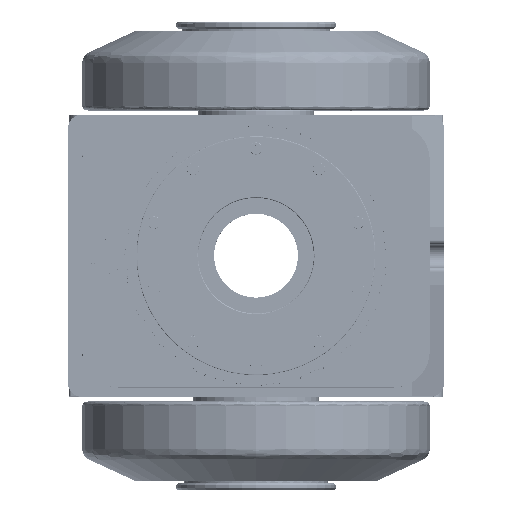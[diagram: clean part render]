
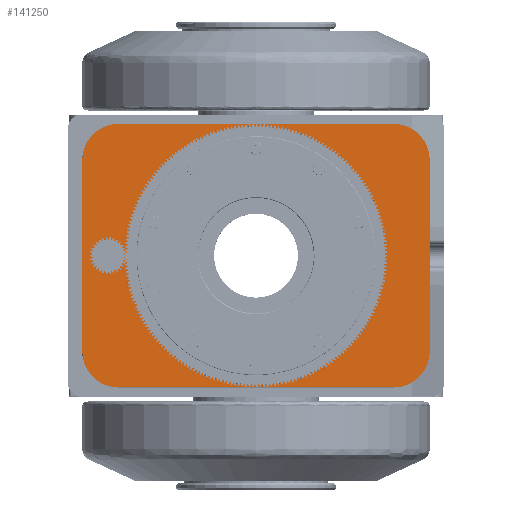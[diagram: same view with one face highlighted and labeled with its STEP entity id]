
A CAD part, top view. The second image highlights one B-rep face of the part: STEP entity #141250.
In plain terms, the highlighted planar face has unit normal (0, 0, 1).
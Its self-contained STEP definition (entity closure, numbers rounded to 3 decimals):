
#8849 = EDGE_CURVE ( 'NONE', #61962, #61968, #26941, .T. ) ;
#8853 = EDGE_CURVE ( 'NONE', #61970, #61976, #26959, .T. ) ;
#8937 = EDGE_CURVE ( 'NONE', #61976, #61970, #27267, .T. ) ;
#8938 = EDGE_CURVE ( 'NONE', #61968, #61962, #27269, .T. ) ;
#8960 = EDGE_CURVE ( 'NONE', #62096, #62084, #27347, .T. ) ;
#8961 = EDGE_CURVE ( 'NONE', #62098, #62084, #27335, .T. ) ;
#8962 = EDGE_CURVE ( 'NONE', #62098, #62104, #27352, .T. ) ;
#8963 = EDGE_CURVE ( 'NONE', #62092, #62104, #27361, .T. ) ;
#8964 = EDGE_CURVE ( 'NONE', #62092, #62108, #27357, .T. ) ;
#8965 = EDGE_CURVE ( 'NONE', #62102, #62108, #27369, .T. ) ;
#8966 = EDGE_CURVE ( 'NONE', #62102, #62112, #27366, .T. ) ;
#8967 = EDGE_CURVE ( 'NONE', #62096, #62112, #27379, .T. ) ;
#26941 = CIRCLE ( 'NONE', #31730, 10. ) ;
#26959 = CIRCLE ( 'NONE', #31735, 82.5 ) ;
#27267 = CIRCLE ( 'NONE', #31835, 82.5 ) ;
#27269 = CIRCLE ( 'NONE', #31838, 10. ) ;
#27335 = CIRCLE ( 'NONE', #31868, 25. ) ;
#27347 = LINE ( 'NONE', #150393, #27354 ) ;
#27352 = LINE ( 'NONE', #150402, #27364 ) ;
#27354 = VECTOR ( 'NONE', #150397, 1000. ) ;
#27357 = LINE ( 'NONE', #150413, #27372 ) ;
#27361 = CIRCLE ( 'NONE', #31870, 25. ) ;
#27364 = VECTOR ( 'NONE', #150395, 1000. ) ;
#27366 = LINE ( 'NONE', #150424, #27381 ) ;
#27369 = CIRCLE ( 'NONE', #31873, 25. ) ;
#27372 = VECTOR ( 'NONE', #150398, 1000. ) ;
#27379 = CIRCLE ( 'NONE', #31875, 25. ) ;
#27381 = VECTOR ( 'NONE', #150411, 1000. ) ;
#31730 = AXIS2_PLACEMENT_3D ( 'NONE', #149755, #149758, #149761 ) ;
#31735 = AXIS2_PLACEMENT_3D ( 'NONE', #149796, #149799, #149802 ) ;
#31835 = AXIS2_PLACEMENT_3D ( 'NONE', #150264, #150266, #150268 ) ;
#31838 = AXIS2_PLACEMENT_3D ( 'NONE', #150271, #150273, #150275 ) ;
#31868 = AXIS2_PLACEMENT_3D ( 'NONE', #150403, #150405, #150407 ) ;
#31870 = AXIS2_PLACEMENT_3D ( 'NONE', #150414, #150416, #150418 ) ;
#31873 = AXIS2_PLACEMENT_3D ( 'NONE', #150425, #150427, #150429 ) ;
#31875 = AXIS2_PLACEMENT_3D ( 'NONE', #150435, #150437, #150439 ) ;
#44885 = AXIS2_PLACEMENT_3D ( 'NONE', #105714, #105710, #105720 ) ;
#61962 = VERTEX_POINT ( 'NONE', #96998 ) ;
#61968 = VERTEX_POINT ( 'NONE', #97007 ) ;
#61970 = VERTEX_POINT ( 'NONE', #97009 ) ;
#61976 = VERTEX_POINT ( 'NONE', #97018 ) ;
#62084 = VERTEX_POINT ( 'NONE', #97157 ) ;
#62092 = VERTEX_POINT ( 'NONE', #97167 ) ;
#62096 = VERTEX_POINT ( 'NONE', #97172 ) ;
#62098 = VERTEX_POINT ( 'NONE', #97174 ) ;
#62102 = VERTEX_POINT ( 'NONE', #97180 ) ;
#62104 = VERTEX_POINT ( 'NONE', #97183 ) ;
#62108 = VERTEX_POINT ( 'NONE', #97188 ) ;
#62112 = VERTEX_POINT ( 'NONE', #97193 ) ;
#79037 = EDGE_LOOP ( 'NONE', ( #161807, #161808, #161809, #161810, #161811, #161812, #161813, #161814 ) ) ;
#79075 = EDGE_LOOP ( 'NONE', ( #161805, #161806 ) ) ;
#79132 = EDGE_LOOP ( 'NONE', ( #161803, #161804 ) ) ;
#96998 = CARTESIAN_POINT ( 'NONE',  ( -102., -10., -2. ) ) ;
#97007 = CARTESIAN_POINT ( 'NONE',  ( -102., 10., -2. ) ) ;
#97009 = CARTESIAN_POINT ( 'NONE',  ( 0., 82.5, -2. ) ) ;
#97018 = CARTESIAN_POINT ( 'NONE',  ( 0., -82.5, -2. ) ) ;
#97157 = CARTESIAN_POINT ( 'NONE',  ( 120., 66., -2. ) ) ;
#97167 = CARTESIAN_POINT ( 'NONE',  ( -120., 66., -2. ) ) ;
#97172 = CARTESIAN_POINT ( 'NONE',  ( 120., -66., -2. ) ) ;
#97174 = CARTESIAN_POINT ( 'NONE',  ( 95., 91., -2. ) ) ;
#97180 = CARTESIAN_POINT ( 'NONE',  ( -95., -91., -2. ) ) ;
#97183 = CARTESIAN_POINT ( 'NONE',  ( -95., 91., -2. ) ) ;
#97188 = CARTESIAN_POINT ( 'NONE',  ( -120., -66., -2. ) ) ;
#97193 = CARTESIAN_POINT ( 'NONE',  ( 95., -91., -2. ) ) ;
#105710 = DIRECTION ( 'NONE',  ( 0., 0., 1. ) ) ;
#105714 = CARTESIAN_POINT ( 'NONE',  ( 0., 0., -2. ) ) ;
#105718 = PLANE ( 'NONE',  #44885 ) ;
#105720 = DIRECTION ( 'NONE',  ( 0., -1., 0. ) ) ;
#140154 = FACE_OUTER_BOUND ( 'NONE', #79037, .T. ) ;
#140186 = FACE_BOUND ( 'NONE', #79132, .T. ) ;
#140199 = FACE_BOUND ( 'NONE', #79075, .T. ) ;
#141250 = ADVANCED_FACE ( 'NONE', ( #140186, #140199, #140154 ), #105718, .T. ) ;
#149755 = CARTESIAN_POINT ( 'NONE',  ( -102., 0., -2. ) ) ;
#149758 = DIRECTION ( 'NONE',  ( 0., 0., -1. ) ) ;
#149761 = DIRECTION ( 'NONE',  ( 0., 1., 0. ) ) ;
#149796 = CARTESIAN_POINT ( 'NONE',  ( 0., 0., -2. ) ) ;
#149799 = DIRECTION ( 'NONE',  ( 0., 0., -1. ) ) ;
#149802 = DIRECTION ( 'NONE',  ( 0., -1., 0. ) ) ;
#150264 = CARTESIAN_POINT ( 'NONE',  ( 0., 0., -2. ) ) ;
#150266 = DIRECTION ( 'NONE',  ( 0., 0., -1. ) ) ;
#150268 = DIRECTION ( 'NONE',  ( 0., -1., 0. ) ) ;
#150271 = CARTESIAN_POINT ( 'NONE',  ( -102., 0., -2. ) ) ;
#150273 = DIRECTION ( 'NONE',  ( 0., 0., -1. ) ) ;
#150275 = DIRECTION ( 'NONE',  ( 0., 1., 0. ) ) ;
#150393 = CARTESIAN_POINT ( 'NONE',  ( 120., -91., -2. ) ) ;
#150395 = DIRECTION ( 'NONE',  ( -1., 0., 0. ) ) ;
#150397 = DIRECTION ( 'NONE',  ( 0., 1., 0. ) ) ;
#150398 = DIRECTION ( 'NONE',  ( 0., -1., 0. ) ) ;
#150402 = CARTESIAN_POINT ( 'NONE',  ( -120., 91., -2. ) ) ;
#150403 = CARTESIAN_POINT ( 'NONE',  ( 95., 66., -2. ) ) ;
#150405 = DIRECTION ( 'NONE',  ( 0., 0., -1. ) ) ;
#150407 = DIRECTION ( 'NONE',  ( 0., -1., 0. ) ) ;
#150411 = DIRECTION ( 'NONE',  ( 1., 0., 0. ) ) ;
#150413 = CARTESIAN_POINT ( 'NONE',  ( -120., -91., -2. ) ) ;
#150414 = CARTESIAN_POINT ( 'NONE',  ( -95., 66., -2. ) ) ;
#150416 = DIRECTION ( 'NONE',  ( 0., 0., -1. ) ) ;
#150418 = DIRECTION ( 'NONE',  ( 0., -1., 0. ) ) ;
#150424 = CARTESIAN_POINT ( 'NONE',  ( -120., -91., -2. ) ) ;
#150425 = CARTESIAN_POINT ( 'NONE',  ( -95., -66., -2. ) ) ;
#150427 = DIRECTION ( 'NONE',  ( 0., 0., -1. ) ) ;
#150429 = DIRECTION ( 'NONE',  ( 0., -1., 0. ) ) ;
#150435 = CARTESIAN_POINT ( 'NONE',  ( 95., -66., -2. ) ) ;
#150437 = DIRECTION ( 'NONE',  ( 0., 0., -1. ) ) ;
#150439 = DIRECTION ( 'NONE',  ( 0., -1., 0. ) ) ;
#161803 = ORIENTED_EDGE ( 'NONE', *, *, #8937, .T. ) ;
#161804 = ORIENTED_EDGE ( 'NONE', *, *, #8853, .T. ) ;
#161805 = ORIENTED_EDGE ( 'NONE', *, *, #8938, .T. ) ;
#161806 = ORIENTED_EDGE ( 'NONE', *, *, #8849, .T. ) ;
#161807 = ORIENTED_EDGE ( 'NONE', *, *, #8960, .T. ) ;
#161808 = ORIENTED_EDGE ( 'NONE', *, *, #8961, .F. ) ;
#161809 = ORIENTED_EDGE ( 'NONE', *, *, #8962, .T. ) ;
#161810 = ORIENTED_EDGE ( 'NONE', *, *, #8963, .F. ) ;
#161811 = ORIENTED_EDGE ( 'NONE', *, *, #8964, .T. ) ;
#161812 = ORIENTED_EDGE ( 'NONE', *, *, #8965, .F. ) ;
#161813 = ORIENTED_EDGE ( 'NONE', *, *, #8966, .T. ) ;
#161814 = ORIENTED_EDGE ( 'NONE', *, *, #8967, .F. ) ;
